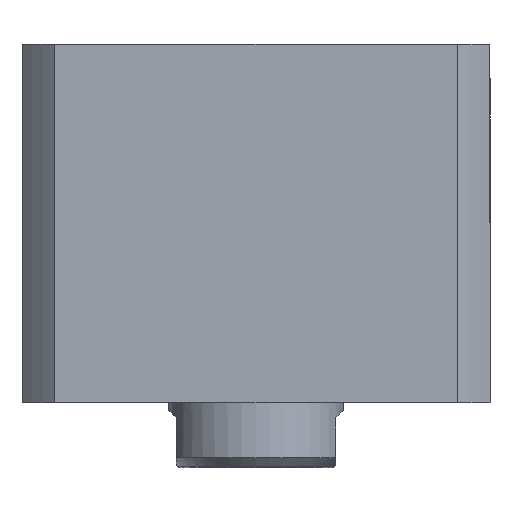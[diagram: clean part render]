
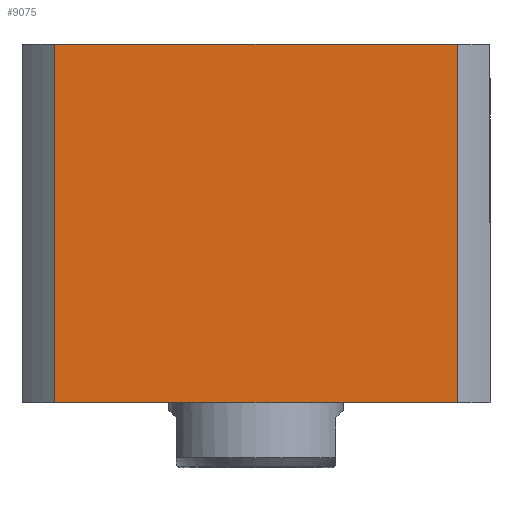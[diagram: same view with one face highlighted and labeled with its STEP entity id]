
A CAD part, front view. The second image highlights one B-rep face of the part: STEP entity #9075.
In plain terms, the highlighted planar face has unit normal (0, -1, 0) as drawn and (0, 1, 0) by its records, which use the part's own axes.
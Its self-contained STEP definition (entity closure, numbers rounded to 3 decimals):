
#458 = CARTESIAN_POINT ( 'NONE',  ( 40.435, 47., 0. ) ) ;
#488 = EDGE_CURVE ( 'NONE', #4928, #5612, #8622, .T. ) ;
#1431 = EDGE_LOOP ( 'NONE', ( #11541, #14336, #13904, #13038 ) ) ;
#2092 = CARTESIAN_POINT ( 'NONE',  ( -47., 47., 72. ) ) ;
#2809 = LINE ( 'NONE', #13788, #10567 ) ;
#2977 = LINE ( 'NONE', #14101, #9862 ) ;
#4258 = DIRECTION ( 'NONE',  ( -1., 0., 0. ) ) ;
#4928 = VERTEX_POINT ( 'NONE', #10861 ) ;
#5560 = DIRECTION ( 'NONE',  ( 0., 0., -1. ) ) ;
#5612 = VERTEX_POINT ( 'NONE', #6431 ) ;
#5888 = DIRECTION ( 'NONE',  ( 0., 0., 1. ) ) ;
#6261 = PLANE ( 'NONE',  #15579 ) ;
#6431 = CARTESIAN_POINT ( 'NONE',  ( -40.435, 47., 72. ) ) ;
#6459 = VERTEX_POINT ( 'NONE', #458 ) ;
#7021 = EDGE_CURVE ( 'NONE', #5612, #8115, #2809, .T. ) ;
#7216 = DIRECTION ( 'NONE',  ( -1., 0., 0. ) ) ;
#7642 = DIRECTION ( 'NONE',  ( 0., 0., -1. ) ) ;
#8115 = VERTEX_POINT ( 'NONE', #8719 ) ;
#8622 = LINE ( 'NONE', #16194, #11834 ) ;
#8719 = CARTESIAN_POINT ( 'NONE',  ( -40.435, 47., 0. ) ) ;
#9075 = ADVANCED_FACE ( 'NONE', ( #16994 ), #6261, .F. ) ;
#9212 = VECTOR ( 'NONE', #7216, 1000. ) ;
#9862 = VECTOR ( 'NONE', #5888, 1000. ) ;
#10567 = VECTOR ( 'NONE', #5560, 1000. ) ;
#10861 = CARTESIAN_POINT ( 'NONE',  ( 40.435, 47., 72. ) ) ;
#11541 = ORIENTED_EDGE ( 'NONE', *, *, #11718, .F. ) ;
#11718 = EDGE_CURVE ( 'NONE', #6459, #4928, #2977, .T. ) ;
#11834 = VECTOR ( 'NONE', #4258, 1000. ) ;
#12828 = LINE ( 'NONE', #15418, #9212 ) ;
#13038 = ORIENTED_EDGE ( 'NONE', *, *, #488, .F. ) ;
#13788 = CARTESIAN_POINT ( 'NONE',  ( -40.435, 47., -228. ) ) ;
#13904 = ORIENTED_EDGE ( 'NONE', *, *, #7021, .F. ) ;
#14101 = CARTESIAN_POINT ( 'NONE',  ( 40.435, 47., -228. ) ) ;
#14336 = ORIENTED_EDGE ( 'NONE', *, *, #16907, .T. ) ;
#15418 = CARTESIAN_POINT ( 'NONE',  ( -47., 47., 0. ) ) ;
#15579 = AXIS2_PLACEMENT_3D ( 'NONE', #2092, #15861, #7642 ) ;
#15861 = DIRECTION ( 'NONE',  ( 0., -1., 0. ) ) ;
#16194 = CARTESIAN_POINT ( 'NONE',  ( -47., 47., 72. ) ) ;
#16907 = EDGE_CURVE ( 'NONE', #6459, #8115, #12828, .T. ) ;
#16994 = FACE_OUTER_BOUND ( 'NONE', #1431, .T. ) ;
